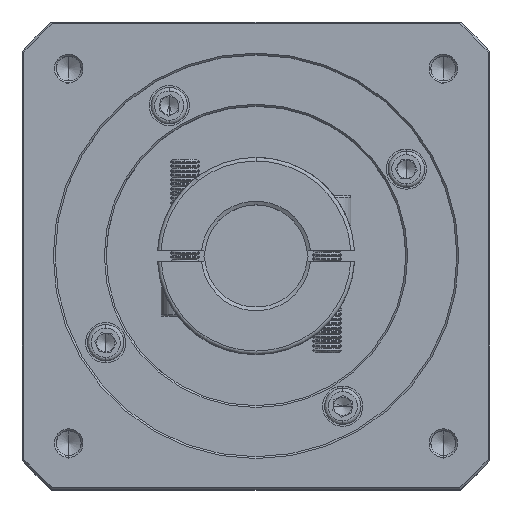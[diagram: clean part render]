
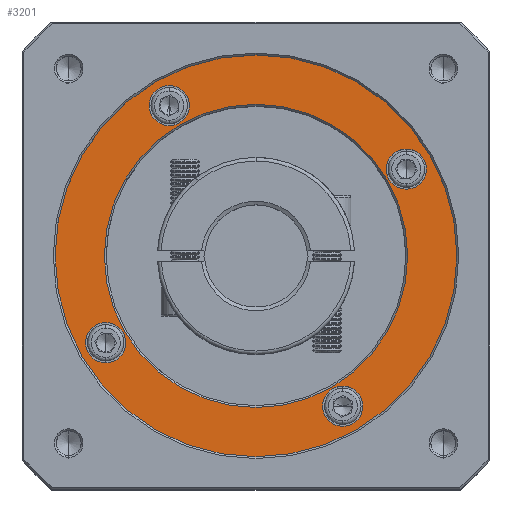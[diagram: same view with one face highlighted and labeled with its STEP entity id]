
A CAD part, top view. The second image highlights one B-rep face of the part: STEP entity #3201.
In plain terms, the highlighted planar face has unit normal (0, 0, 1).
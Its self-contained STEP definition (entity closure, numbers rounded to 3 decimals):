
#19 = CIRCLE ( 'NONE', #56356, 5.5 ) ;
#584 = ORIENTED_EDGE ( 'NONE', *, *, #59354, .T. ) ;
#1189 = CARTESIAN_POINT ( 'NONE',  ( 76.602, 40.481, 34.78 ) ) ;
#1859 = CARTESIAN_POINT ( 'NONE',  ( 52.852, 136.618, 34.78 ) ) ;
#3201 = ADVANCED_FACE ( 'NONE', ( #14515, #35208, #129177, #8110, #75081, #32019 ), #30348, .T. ) ;
#3396 = ORIENTED_EDGE ( 'NONE', *, *, #74333, .T. ) ;
#3889 = VERTEX_POINT ( 'NONE', #86165 ) ;
#4872 = EDGE_CURVE ( 'NONE', #11034, #3889, #5815, .T. ) ;
#5038 = CARTESIAN_POINT ( 'NONE',  ( 76.602, 45.981, 34.78 ) ) ;
#5815 = CIRCLE ( 'NONE', #82472, 41.5 ) ;
#6110 = AXIS2_PLACEMENT_3D ( 'NONE', #58903, #130007, #100255 ) ;
#7399 = CIRCLE ( 'NONE', #125062, 5.5 ) ;
#7537 = CIRCLE ( 'NONE', #56122, 5.5 ) ;
#7813 = DIRECTION ( 'NONE',  ( 0., 0., -1. ) ) ;
#7938 = DIRECTION ( 'NONE',  ( 0., 0., -1. ) ) ;
#8110 = FACE_BOUND ( 'NONE', #117783, .T. ) ;
#8284 = VERTEX_POINT ( 'NONE', #45057 ) ;
#9883 = CIRCLE ( 'NONE', #42007, 5.5 ) ;
#10663 = VERTEX_POINT ( 'NONE', #92408 ) ;
#10950 = EDGE_CURVE ( 'NONE', #24355, #8284, #7537, .T. ) ;
#11034 = VERTEX_POINT ( 'NONE', #67935 ) ;
#14515 = FACE_OUTER_BOUND ( 'NONE', #66987, .T. ) ;
#15831 = VERTEX_POINT ( 'NONE', #21721 ) ;
#16719 = DIRECTION ( 'NONE',  ( 0., 0., -1. ) ) ;
#17298 = CARTESIAN_POINT ( 'NONE',  ( 11.716, 52.368, 34.78 ) ) ;
#17639 = DIRECTION ( 'NONE',  ( 0., 1., 0. ) ) ;
#20050 = DIRECTION ( 'NONE',  ( 0., 0., 1. ) ) ;
#20108 = DIRECTION ( 'NONE',  ( 0., 0., -1. ) ) ;
#21721 = CARTESIAN_POINT ( 'NONE',  ( 52.852, 26.618, 34.78 ) ) ;
#24355 = VERTEX_POINT ( 'NONE', #83317 ) ;
#25272 = ORIENTED_EDGE ( 'NONE', *, *, #40981, .T. ) ;
#25686 = ORIENTED_EDGE ( 'NONE', *, *, #44461, .T. ) ;
#26234 = AXIS2_PLACEMENT_3D ( 'NONE', #32092, #103264, #62846 ) ;
#26482 = DIRECTION ( 'NONE',  ( 0., 0., -1. ) ) ;
#26879 = CARTESIAN_POINT ( 'NONE',  ( 93.989, 105.368, 34.78 ) ) ;
#29595 = CARTESIAN_POINT ( 'NONE',  ( 29.102, 122.754, 34.78 ) ) ;
#29607 = CARTESIAN_POINT ( 'NONE',  ( 76.602, 40.481, 34.78 ) ) ;
#29647 = CIRCLE ( 'NONE', #100162, 5.5 ) ;
#29988 = EDGE_CURVE ( 'NONE', #86543, #107294, #9883, .T. ) ;
#30278 = VERTEX_POINT ( 'NONE', #38529 ) ;
#30348 = PLANE ( 'NONE',  #71126 ) ;
#32019 = FACE_BOUND ( 'NONE', #64515, .T. ) ;
#32092 = CARTESIAN_POINT ( 'NONE',  ( 52.852, 81.618, 34.78 ) ) ;
#35208 = FACE_BOUND ( 'NONE', #60293, .T. ) ;
#37503 = ORIENTED_EDGE ( 'NONE', *, *, #29988, .T. ) ;
#38516 = DIRECTION ( 'NONE',  ( 0., 0., -1. ) ) ;
#38529 = CARTESIAN_POINT ( 'NONE',  ( 29.102, 117.254, 34.78 ) ) ;
#40580 = VERTEX_POINT ( 'NONE', #5038 ) ;
#40981 = EDGE_CURVE ( 'NONE', #15831, #49767, #115415, .T. ) ;
#42007 = AXIS2_PLACEMENT_3D ( 'NONE', #96895, #43964, #76449 ) ;
#42766 = CIRCLE ( 'NONE', #86138, 5.5 ) ;
#43964 = DIRECTION ( 'NONE',  ( 0., 0., -1. ) ) ;
#44461 = EDGE_CURVE ( 'NONE', #107294, #86543, #29647, .T. ) ;
#45057 = CARTESIAN_POINT ( 'NONE',  ( 93.989, 110.868, 34.78 ) ) ;
#46348 = EDGE_CURVE ( 'NONE', #75004, #30278, #7399, .T. ) ;
#48038 = CARTESIAN_POINT ( 'NONE',  ( 29.102, 128.254, 34.78 ) ) ;
#48293 = CARTESIAN_POINT ( 'NONE',  ( 52.852, 81.618, 34.78 ) ) ;
#48865 = CARTESIAN_POINT ( 'NONE',  ( 29.102, 122.754, 34.78 ) ) ;
#49048 = CARTESIAN_POINT ( 'NONE',  ( 52.852, 81.618, 34.78 ) ) ;
#49767 = VERTEX_POINT ( 'NONE', #1859 ) ;
#52606 = DIRECTION ( 'NONE',  ( 0., 0., 1. ) ) ;
#56122 = AXIS2_PLACEMENT_3D ( 'NONE', #77721, #16719, #118550 ) ;
#56356 = AXIS2_PLACEMENT_3D ( 'NONE', #29607, #7813, #99948 ) ;
#56459 = ORIENTED_EDGE ( 'NONE', *, *, #112597, .T. ) ;
#56497 = DIRECTION ( 'NONE',  ( 0., 1., 0. ) ) ;
#56850 = DIRECTION ( 'NONE',  ( 0., 1., 0. ) ) ;
#58903 = CARTESIAN_POINT ( 'NONE',  ( 52.852, 81.618, 34.78 ) ) ;
#59354 = EDGE_CURVE ( 'NONE', #30278, #75004, #90058, .T. ) ;
#60293 = EDGE_LOOP ( 'NONE', ( #69716, #64539 ) ) ;
#61315 = EDGE_LOOP ( 'NONE', ( #37503, #25686 ) ) ;
#62846 = DIRECTION ( 'NONE',  ( 0., 1., 0. ) ) ;
#64515 = EDGE_LOOP ( 'NONE', ( #56459, #3396 ) ) ;
#64539 = ORIENTED_EDGE ( 'NONE', *, *, #4872, .T. ) ;
#66987 = EDGE_LOOP ( 'NONE', ( #83856, #25272 ) ) ;
#67935 = CARTESIAN_POINT ( 'NONE',  ( 52.852, 40.118, 34.78 ) ) ;
#69716 = ORIENTED_EDGE ( 'NONE', *, *, #108445, .T. ) ;
#71126 = AXIS2_PLACEMENT_3D ( 'NONE', #49048, #52606, #56497 ) ;
#74333 = EDGE_CURVE ( 'NONE', #10663, #40580, #19, .T. ) ;
#74982 = CIRCLE ( 'NONE', #6110, 41.5 ) ;
#75004 = VERTEX_POINT ( 'NONE', #48038 ) ;
#75081 = FACE_BOUND ( 'NONE', #61315, .T. ) ;
#76449 = DIRECTION ( 'NONE',  ( 0., 1., 0. ) ) ;
#77721 = CARTESIAN_POINT ( 'NONE',  ( 93.989, 105.368, 34.78 ) ) ;
#78161 = DIRECTION ( 'NONE',  ( 0., 0., -1. ) ) ;
#79078 = CARTESIAN_POINT ( 'NONE',  ( 11.716, 63.368, 34.78 ) ) ;
#80434 = EDGE_LOOP ( 'NONE', ( #82021, #584 ) ) ;
#80803 = EDGE_CURVE ( 'NONE', #8284, #24355, #82570, .T. ) ;
#82021 = ORIENTED_EDGE ( 'NONE', *, *, #46348, .T. ) ;
#82056 = CARTESIAN_POINT ( 'NONE',  ( 11.716, 57.868, 34.78 ) ) ;
#82472 = AXIS2_PLACEMENT_3D ( 'NONE', #48293, #26482, #56850 ) ;
#82570 = CIRCLE ( 'NONE', #121228, 5.5 ) ;
#82885 = CARTESIAN_POINT ( 'NONE',  ( 52.852, 81.618, 34.78 ) ) ;
#83317 = CARTESIAN_POINT ( 'NONE',  ( 93.989, 99.868, 34.78 ) ) ;
#83422 = AXIS2_PLACEMENT_3D ( 'NONE', #82885, #20050, #101535 ) ;
#83856 = ORIENTED_EDGE ( 'NONE', *, *, #105657, .T. ) ;
#86138 = AXIS2_PLACEMENT_3D ( 'NONE', #1189, #92936, #125825 ) ;
#86165 = CARTESIAN_POINT ( 'NONE',  ( 52.852, 123.118, 34.78 ) ) ;
#86543 = VERTEX_POINT ( 'NONE', #79078 ) ;
#89277 = DIRECTION ( 'NONE',  ( 0., 1., 0. ) ) ;
#90058 = CIRCLE ( 'NONE', #94464, 5.5 ) ;
#92035 = CIRCLE ( 'NONE', #83422, 55. ) ;
#92408 = CARTESIAN_POINT ( 'NONE',  ( 76.602, 34.981, 34.78 ) ) ;
#92936 = DIRECTION ( 'NONE',  ( 0., 0., -1. ) ) ;
#94464 = AXIS2_PLACEMENT_3D ( 'NONE', #29595, #38516, #17639 ) ;
#96895 = CARTESIAN_POINT ( 'NONE',  ( 11.716, 57.868, 34.78 ) ) ;
#99208 = DIRECTION ( 'NONE',  ( 0., 1., 0. ) ) ;
#99230 = ORIENTED_EDGE ( 'NONE', *, *, #10950, .T. ) ;
#99948 = DIRECTION ( 'NONE',  ( 0., 1., 0. ) ) ;
#100162 = AXIS2_PLACEMENT_3D ( 'NONE', #82056, #20108, #131799 ) ;
#100255 = DIRECTION ( 'NONE',  ( 0., 1., 0. ) ) ;
#101535 = DIRECTION ( 'NONE',  ( 0., 1., 0. ) ) ;
#103264 = DIRECTION ( 'NONE',  ( 0., 0., 1. ) ) ;
#105657 = EDGE_CURVE ( 'NONE', #49767, #15831, #92035, .T. ) ;
#107294 = VERTEX_POINT ( 'NONE', #17298 ) ;
#108445 = EDGE_CURVE ( 'NONE', #3889, #11034, #74982, .T. ) ;
#112597 = EDGE_CURVE ( 'NONE', #40580, #10663, #42766, .T. ) ;
#115242 = ORIENTED_EDGE ( 'NONE', *, *, #80803, .T. ) ;
#115415 = CIRCLE ( 'NONE', #26234, 55. ) ;
#117783 = EDGE_LOOP ( 'NONE', ( #115242, #99230 ) ) ;
#118550 = DIRECTION ( 'NONE',  ( 0., 1., 0. ) ) ;
#121228 = AXIS2_PLACEMENT_3D ( 'NONE', #26879, #78161, #89277 ) ;
#125062 = AXIS2_PLACEMENT_3D ( 'NONE', #48865, #7938, #99208 ) ;
#125825 = DIRECTION ( 'NONE',  ( 0., 1., 0. ) ) ;
#129177 = FACE_BOUND ( 'NONE', #80434, .T. ) ;
#130007 = DIRECTION ( 'NONE',  ( 0., 0., -1. ) ) ;
#131799 = DIRECTION ( 'NONE',  ( 0., 1., 0. ) ) ;
